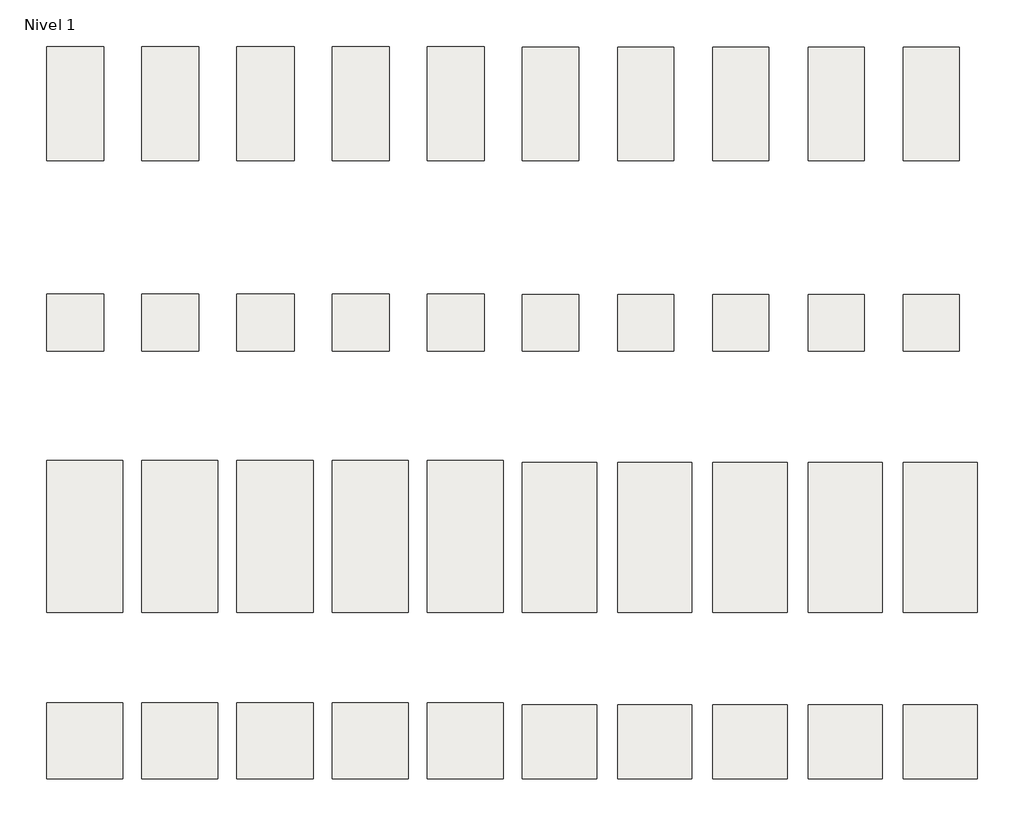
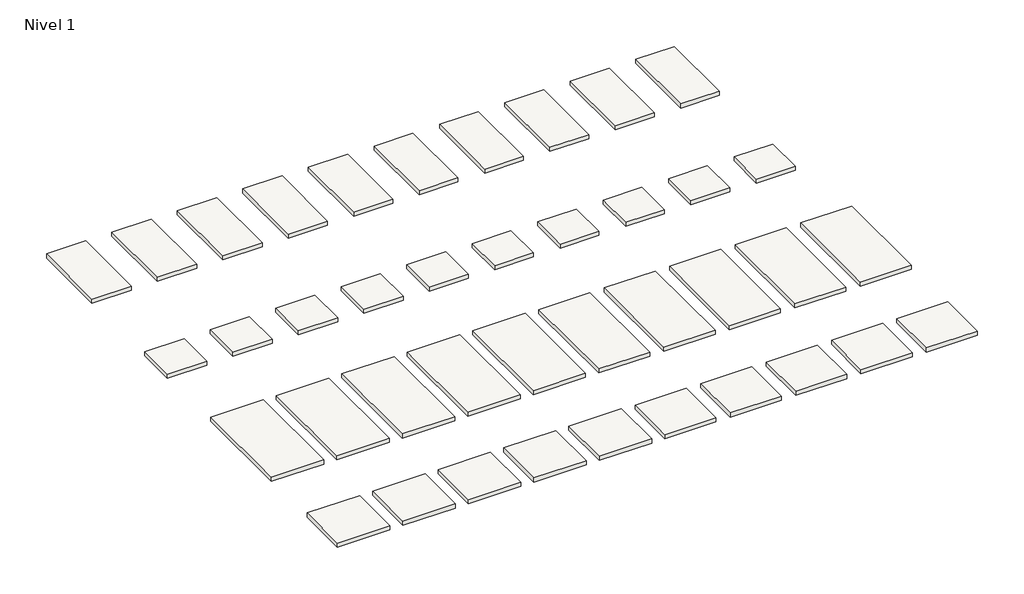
# One storey: 40 slabs.
"""IFC4 building model written with IfcOpenShell, lengths in millimetres."""

from ifc_helpers import new_model, si_unit, frame, origin, place, context, project, spatial, polyline, outline, extrude, element, save

model = new_model("IFC4")

# Units and contexts
model_context = context("Model", 3, world=origin())
ifc_project = project(units=[si_unit("LENGTHUNIT", "METRE", prefix="MILLI")], contexts=[model_context])

# Site, building, storey
site = spatial("IfcSite", under=ifc_project)
building = spatial("IfcBuilding", under=site)
storey = spatial("IfcBuildingStorey", under=building, Name="Nivel 1", Elevation=0.0)

# Slabs
placement = place(None, origin())
element("IfcSlab", 1, ObjectType="Artic Antracita 60X120 Natural", at=placement, inside=storey, context=model_context, shape_type="SweptSolid", body=[
    extrude(outline(polyline([(0.0, 1200.0), (600.0, 1200.0), (600.0, 0.0), (0.0, 0.0), (0.0, 1200.0)])), frame((0.0, 0.0, -65.0), z_axis=(0.0, 0.0, 1.0), x_axis=(1.0, 0.0, 0.0)), (0.0, 0.0, 1.0), 65.0),
])
element("IfcSlab", 2, ObjectType="Artic Beige 60X120 Natural", at=placement, inside=storey, context=model_context, shape_type="SweptSolid", body=[
    extrude(outline(polyline([(1000.0, 1200.0), (1600.0, 1200.0), (1600.0, 0.0), (1000.0, 0.0), (1000.0, 1200.0)])), frame((0.0, 0.0, -65.0), z_axis=(0.0, 0.0, 1.0), x_axis=(1.0, 0.0, 0.0)), (0.0, 0.0, 1.0), 65.0),
])
element("IfcSlab", 3, ObjectType="Artic Blanco 60X120 Natural", at=placement, inside=storey, context=model_context, shape_type="SweptSolid", body=[
    extrude(outline(polyline([(2000.0, 1200.0), (2600.0, 1200.0), (2600.0, 0.0), (2000.0, 0.0), (2000.0, 1200.0)])), frame((0.0, 0.0, -65.0), z_axis=(0.0, 0.0, 1.0), x_axis=(1.0, 0.0, 0.0)), (0.0, 0.0, 1.0), 65.0),
])
element("IfcSlab", 4, ObjectType="Artic Gris 60X120 Natural", at=placement, inside=storey, context=model_context, shape_type="SweptSolid", body=[
    extrude(outline(polyline([(3000.0, 1200.0), (3600.0, 1200.0), (3600.0, 0.0), (3000.0, 0.0), (3000.0, 1200.0)])), frame((0.0, 0.0, -65.0), z_axis=(0.0, 0.0, 1.0), x_axis=(1.0, 0.0, 0.0)), (0.0, 0.0, 1.0), 65.0),
])
element("IfcSlab", 5, ObjectType="Artic Moka 60X120 Natural", at=placement, inside=storey, context=model_context, shape_type="SweptSolid", body=[
    extrude(outline(polyline([(4000.0, 1200.0), (4600.0, 1200.0), (4600.0, 0.0), (4000.0, 0.0), (4000.0, 1200.0)])), frame((0.0, 0.0, -65.0), z_axis=(0.0, 0.0, 1.0), x_axis=(1.0, 0.0, 0.0)), (0.0, 0.0, 1.0), 65.0),
])
element("IfcSlab", 6, ObjectType="Artic Antracita 59X119 Pulido", at=placement, inside=storey, context=model_context, shape_type="SweptSolid", body=[
    extrude(outline(polyline([(5000.0, 1190.0), (5590.0, 1190.0), (5590.0, 0.0), (5000.0, 0.0), (5000.0, 1190.0)])), frame((0.0, 0.0, -65.0), z_axis=(0.0, 0.0, 1.0), x_axis=(1.0, 0.0, 0.0)), (0.0, 0.0, 1.0), 65.0),
])
element("IfcSlab", 7, ObjectType="Artic Beige 59X119 Pulido", at=placement, inside=storey, context=model_context, shape_type="SweptSolid", body=[
    extrude(outline(polyline([(6000.0, 1190.0), (6590.0, 1190.0), (6590.0, 0.0), (6000.0, 0.0), (6000.0, 1190.0)])), frame((0.0, 0.0, -65.0), z_axis=(0.0, 0.0, 1.0), x_axis=(1.0, 0.0, 0.0)), (0.0, 0.0, 1.0), 65.0),
])
element("IfcSlab", 8, ObjectType="Artic Blanco 59X119 Pulido", at=placement, inside=storey, context=model_context, shape_type="SweptSolid", body=[
    extrude(outline(polyline([(7000.0, 1190.0), (7590.0, 1190.0), (7590.0, 0.0), (7000.0, 0.0), (7000.0, 1190.0)])), frame((0.0, 0.0, -65.0), z_axis=(0.0, 0.0, 1.0), x_axis=(1.0, 0.0, 0.0)), (0.0, 0.0, 1.0), 65.0),
])
element("IfcSlab", 9, ObjectType="Artic Gris 59X119 Pulido", at=placement, inside=storey, context=model_context, shape_type="SweptSolid", body=[
    extrude(outline(polyline([(8000.0, 1190.0), (8590.0, 1190.0), (8590.0, 0.0), (8000.0, 0.0), (8000.0, 1190.0)])), frame((0.0, 0.0, -65.0), z_axis=(0.0, 0.0, 1.0), x_axis=(1.0, 0.0, 0.0)), (0.0, 0.0, 1.0), 65.0),
])
element("IfcSlab", 10, ObjectType="Artic Moka 59X119 Pulido", at=placement, inside=storey, context=model_context, shape_type="SweptSolid", body=[
    extrude(outline(polyline([(9000.0, 1190.0), (9590.0, 1190.0), (9590.0, 0.0), (9000.0, 0.0), (9000.0, 1190.0)])), frame((0.0, 0.0, -65.0), z_axis=(0.0, 0.0, 1.0), x_axis=(1.0, 0.0, 0.0)), (0.0, 0.0, 1.0), 65.0),
])
element("IfcSlab", 11, ObjectType="Artic Antracita 60X60 Natural", at=placement, inside=storey, context=model_context, shape_type="SweptSolid", body=[
    extrude(outline(polyline([(0.0, -1400.0), (600.0, -1400.0), (600.0, -2000.0), (0.0, -2000.0), (0.0, -1400.0)])), frame((0.0, 0.0, -65.0), z_axis=(0.0, 0.0, 1.0), x_axis=(1.0, 0.0, 0.0)), (0.0, 0.0, 1.0), 65.0),
])
element("IfcSlab", 12, ObjectType="Artic Beige 60X60 Natural", at=placement, inside=storey, context=model_context, shape_type="SweptSolid", body=[
    extrude(outline(polyline([(1000.0, -1400.0), (1600.0, -1400.0), (1600.0, -2000.0), (1000.0, -2000.0), (1000.0, -1400.0)])), frame((0.0, 0.0, -65.0), z_axis=(0.0, 0.0, 1.0), x_axis=(1.0, 0.0, 0.0)), (0.0, 0.0, 1.0), 65.0),
])
element("IfcSlab", 13, ObjectType="Artic Blanco 60X60 Natural", at=placement, inside=storey, context=model_context, shape_type="SweptSolid", body=[
    extrude(outline(polyline([(2000.0, -1400.0), (2600.0, -1400.0), (2600.0, -2000.0), (2000.0, -2000.0), (2000.0, -1400.0)])), frame((0.0, 0.0, -65.0), z_axis=(0.0, 0.0, 1.0), x_axis=(1.0, 0.0, 0.0)), (0.0, 0.0, 1.0), 65.0),
])
element("IfcSlab", 14, ObjectType="Artic Gris 60X60 Natural", at=placement, inside=storey, context=model_context, shape_type="SweptSolid", body=[
    extrude(outline(polyline([(3000.0, -1400.0), (3600.0, -1400.0), (3600.0, -2000.0), (3000.0, -2000.0), (3000.0, -1400.0)])), frame((0.0, 0.0, -65.0), z_axis=(0.0, 0.0, 1.0), x_axis=(1.0, 0.0, 0.0)), (0.0, 0.0, 1.0), 65.0),
])
element("IfcSlab", 15, ObjectType="Artic Moka 60X60 Natural", at=placement, inside=storey, context=model_context, shape_type="SweptSolid", body=[
    extrude(outline(polyline([(4000.0, -1400.0), (4600.0, -1400.0), (4600.0, -2000.0), (4000.0, -2000.0), (4000.0, -1400.0)])), frame((0.0, 0.0, -65.0), z_axis=(0.0, 0.0, 1.0), x_axis=(1.0, 0.0, 0.0)), (0.0, 0.0, 1.0), 65.0),
])
element("IfcSlab", 16, ObjectType="Artic Antracita 59X59 Pulido", at=placement, inside=storey, context=model_context, shape_type="SweptSolid", body=[
    extrude(outline(polyline([(5000.0, -1410.0), (5590.0, -1410.0), (5590.0, -2000.0), (5000.0, -2000.0), (5000.0, -1410.0)])), frame((0.0, 0.0, -65.0), z_axis=(0.0, 0.0, 1.0), x_axis=(1.0, 0.0, 0.0)), (0.0, 0.0, 1.0), 65.0),
])
element("IfcSlab", 17, ObjectType="Artic Beige 59X59 Pulido", at=placement, inside=storey, context=model_context, shape_type="SweptSolid", body=[
    extrude(outline(polyline([(6000.0, -1410.0), (6590.0, -1410.0), (6590.0, -2000.0), (6000.0, -2000.0), (6000.0, -1410.0)])), frame((0.0, 0.0, -65.0), z_axis=(0.0, 0.0, 1.0), x_axis=(1.0, 0.0, 0.0)), (0.0, 0.0, 1.0), 65.0),
])
element("IfcSlab", 18, ObjectType="Artic Blanco 59X59 Pulido", at=placement, inside=storey, context=model_context, shape_type="SweptSolid", body=[
    extrude(outline(polyline([(7000.0, -1410.0), (7590.0, -1410.0), (7590.0, -2000.0), (7000.0, -2000.0), (7000.0, -1410.0)])), frame((0.0, 0.0, -65.0), z_axis=(0.0, 0.0, 1.0), x_axis=(1.0, 0.0, 0.0)), (0.0, 0.0, 1.0), 65.0),
])
element("IfcSlab", 19, ObjectType="Artic Gris 59X59 Pulido", at=placement, inside=storey, context=model_context, shape_type="SweptSolid", body=[
    extrude(outline(polyline([(8000.0, -1410.0), (8590.0, -1410.0), (8590.0, -2000.0), (8000.0, -2000.0), (8000.0, -1410.0)])), frame((0.0, 0.0, -65.0), z_axis=(0.0, 0.0, 1.0), x_axis=(1.0, 0.0, 0.0)), (0.0, 0.0, 1.0), 65.0),
])
element("IfcSlab", 20, ObjectType="Artic Moka 59X59 Pulido", at=placement, inside=storey, context=model_context, shape_type="SweptSolid", body=[
    extrude(outline(polyline([(9000.0, -1410.0), (9590.0, -1410.0), (9590.0, -2000.0), (9000.0, -2000.0), (9000.0, -1410.0)])), frame((0.0, 0.0, -65.0), z_axis=(0.0, 0.0, 1.0), x_axis=(1.0, 0.0, 0.0)), (0.0, 0.0, 1.0), 65.0),
])
element("IfcSlab", 21, ObjectType="Artic Antracita 80X160 Natural", at=placement, inside=storey, context=model_context, shape_type="SweptSolid", body=[
    extrude(outline(polyline([(0.0, -3150.0), (800.0, -3150.0), (800.0, -4750.0), (0.0, -4750.0), (0.0, -3150.0)])), frame((0.0, 0.0, -65.0), z_axis=(0.0, 0.0, 1.0), x_axis=(1.0, 0.0, 0.0)), (0.0, 0.0, 1.0), 65.0),
])
element("IfcSlab", 22, ObjectType="Artic Beige 80X160 Natural", at=placement, inside=storey, context=model_context, shape_type="SweptSolid", body=[
    extrude(outline(polyline([(1000.0, -3150.0), (1800.0, -3150.0), (1800.0, -4750.0), (1000.0, -4750.0), (1000.0, -3150.0)])), frame((0.0, 0.0, -65.0), z_axis=(0.0, 0.0, 1.0), x_axis=(1.0, 0.0, 0.0)), (0.0, 0.0, 1.0), 65.0),
])
element("IfcSlab", 23, ObjectType="Artic Blanco 80X160 Natural", at=placement, inside=storey, context=model_context, shape_type="SweptSolid", body=[
    extrude(outline(polyline([(2000.0, -3150.0), (2800.0, -3150.0), (2800.0, -4750.0), (2000.0, -4750.0), (2000.0, -3150.0)])), frame((0.0, 0.0, -65.0), z_axis=(0.0, 0.0, 1.0), x_axis=(1.0, 0.0, 0.0)), (0.0, 0.0, 1.0), 65.0),
])
element("IfcSlab", 24, ObjectType="Artic Gris 80X160 Natural", at=placement, inside=storey, context=model_context, shape_type="SweptSolid", body=[
    extrude(outline(polyline([(3000.0, -3150.0), (3800.0, -3150.0), (3800.0, -4750.0), (3000.0, -4750.0), (3000.0, -3150.0)])), frame((0.0, 0.0, -65.0), z_axis=(0.0, 0.0, 1.0), x_axis=(1.0, 0.0, 0.0)), (0.0, 0.0, 1.0), 65.0),
])
element("IfcSlab", 25, ObjectType="Artic Moka 80X160 Natural", at=placement, inside=storey, context=model_context, shape_type="SweptSolid", body=[
    extrude(outline(polyline([(4000.0, -3150.0), (4800.0, -3150.0), (4800.0, -4750.0), (4000.0, -4750.0), (4000.0, -3150.0)])), frame((0.0, 0.0, -65.0), z_axis=(0.0, 0.0, 1.0), x_axis=(1.0, 0.0, 0.0)), (0.0, 0.0, 1.0), 65.0),
])
element("IfcSlab", 26, ObjectType="Artic Antracita 78X158 Pulido", at=placement, inside=storey, context=model_context, shape_type="SweptSolid", body=[
    extrude(outline(polyline([(5000.0, -3170.0), (5780.0, -3170.0), (5780.0, -4750.0), (5000.0, -4750.0), (5000.0, -3170.0)])), frame((0.0, 0.0, -65.0), z_axis=(0.0, 0.0, 1.0), x_axis=(1.0, 0.0, 0.0)), (0.0, 0.0, 1.0), 65.0),
])
element("IfcSlab", 27, ObjectType="Artic Beige 78X158 Pulido", at=placement, inside=storey, context=model_context, shape_type="SweptSolid", body=[
    extrude(outline(polyline([(6000.0, -3170.0), (6780.0, -3170.0), (6780.0, -4750.0), (6000.0, -4750.0), (6000.0, -3170.0)])), frame((0.0, 0.0, -65.0), z_axis=(0.0, 0.0, 1.0), x_axis=(1.0, 0.0, 0.0)), (0.0, 0.0, 1.0), 65.0),
])
element("IfcSlab", 28, ObjectType="Artic Blanco 78X158 Pulido", at=placement, inside=storey, context=model_context, shape_type="SweptSolid", body=[
    extrude(outline(polyline([(7000.0, -3170.0), (7780.0, -3170.0), (7780.0, -4750.0), (7000.0, -4750.0), (7000.0, -3170.0)])), frame((0.0, 0.0, -65.0), z_axis=(0.0, 0.0, 1.0), x_axis=(1.0, 0.0, 0.0)), (0.0, 0.0, 1.0), 65.0),
])
element("IfcSlab", 29, ObjectType="Artic Gris 78X158 Pulido", at=placement, inside=storey, context=model_context, shape_type="SweptSolid", body=[
    extrude(outline(polyline([(8000.0, -3170.0), (8780.0, -3170.0), (8780.0, -4750.0), (8000.0, -4750.0), (8000.0, -3170.0)])), frame((0.0, 0.0, -65.0), z_axis=(0.0, 0.0, 1.0), x_axis=(1.0, 0.0, 0.0)), (0.0, 0.0, 1.0), 65.0),
])
element("IfcSlab", 30, ObjectType="Artic Moka 78X158 Pulido", at=placement, inside=storey, context=model_context, shape_type="SweptSolid", body=[
    extrude(outline(polyline([(9000.0, -3170.0), (9780.0, -3170.0), (9780.0, -4750.0), (9000.0, -4750.0), (9000.0, -3170.0)])), frame((0.0, 0.0, -65.0), z_axis=(0.0, 0.0, 1.0), x_axis=(1.0, 0.0, 0.0)), (0.0, 0.0, 1.0), 65.0),
])
element("IfcSlab", 31, ObjectType="Artic Antracita 80X80 Natural", at=placement, inside=storey, context=model_context, shape_type="SweptSolid", body=[
    extrude(outline(polyline([(0.0, -5700.0), (800.0, -5700.0), (800.0, -6500.0), (0.0, -6500.0), (0.0, -5700.0)])), frame((0.0, 0.0, -66.3), z_axis=(0.0, 0.0, 1.0), x_axis=(1.0, 0.0, 0.0)), (0.0, 0.0, 1.0), 66.3),
])
element("IfcSlab", 32, ObjectType="Artic Beige 80X80 Natural", at=placement, inside=storey, context=model_context, shape_type="SweptSolid", body=[
    extrude(outline(polyline([(1000.0, -5700.0), (1800.0, -5700.0), (1800.0, -6500.0), (1000.0, -6500.0), (1000.0, -5700.0)])), frame((0.0, 0.0, -66.3), z_axis=(0.0, 0.0, 1.0), x_axis=(1.0, 0.0, 0.0)), (0.0, 0.0, 1.0), 66.3),
])
element("IfcSlab", 33, ObjectType="Artic Blanco 80X80 Natural", at=placement, inside=storey, context=model_context, shape_type="SweptSolid", body=[
    extrude(outline(polyline([(2000.0, -5700.0), (2800.0, -5700.0), (2800.0, -6500.0), (2000.0, -6500.0), (2000.0, -5700.0)])), frame((0.0, 0.0, -66.3), z_axis=(0.0, 0.0, 1.0), x_axis=(1.0, 0.0, 0.0)), (0.0, 0.0, 1.0), 66.3),
])
element("IfcSlab", 34, ObjectType="Artic Gris 80X80 Natural", at=placement, inside=storey, context=model_context, shape_type="SweptSolid", body=[
    extrude(outline(polyline([(3000.0, -5700.0), (3800.0, -5700.0), (3800.0, -6500.0), (3000.0, -6500.0), (3000.0, -5700.0)])), frame((0.0, 0.0, -66.3), z_axis=(0.0, 0.0, 1.0), x_axis=(1.0, 0.0, 0.0)), (0.0, 0.0, 1.0), 66.3),
])
element("IfcSlab", 35, ObjectType="Artic Moka 80X80 Natural", at=placement, inside=storey, context=model_context, shape_type="SweptSolid", body=[
    extrude(outline(polyline([(4000.0, -5700.0), (4800.0, -5700.0), (4800.0, -6500.0), (4000.0, -6500.0), (4000.0, -5700.0)])), frame((0.0, 0.0, -66.3), z_axis=(0.0, 0.0, 1.0), x_axis=(1.0, 0.0, 0.0)), (0.0, 0.0, 1.0), 66.3),
])
element("IfcSlab", 36, ObjectType="Artic Antracita 78X78 Pulido", at=placement, inside=storey, context=model_context, shape_type="SweptSolid", body=[
    extrude(outline(polyline([(5000.0, -5720.0), (5780.0, -5720.0), (5780.0, -6500.0), (5000.0, -6500.0), (5000.0, -5720.0)])), frame((0.0, 0.0, -66.3), z_axis=(0.0, 0.0, 1.0), x_axis=(1.0, 0.0, 0.0)), (0.0, 0.0, 1.0), 66.3),
])
element("IfcSlab", 37, ObjectType="Artic Beige 78X78 Pulido", at=placement, inside=storey, context=model_context, shape_type="SweptSolid", body=[
    extrude(outline(polyline([(6000.0, -5720.0), (6780.0, -5720.0), (6780.0, -6500.0), (6000.0, -6500.0), (6000.0, -5720.0)])), frame((0.0, 0.0, -66.3), z_axis=(0.0, 0.0, 1.0), x_axis=(1.0, 0.0, 0.0)), (0.0, 0.0, 1.0), 66.3),
])
element("IfcSlab", 38, ObjectType="Artic Blanco 78X78 Pulido", at=placement, inside=storey, context=model_context, shape_type="SweptSolid", body=[
    extrude(outline(polyline([(7000.0, -5720.0), (7780.0, -5720.0), (7780.0, -6500.0), (7000.0, -6500.0), (7000.0, -5720.0)])), frame((0.0, 0.0, -66.3), z_axis=(0.0, 0.0, 1.0), x_axis=(1.0, 0.0, 0.0)), (0.0, 0.0, 1.0), 66.3),
])
element("IfcSlab", 39, ObjectType="Artic Gris 78X78 Pulido", at=placement, inside=storey, context=model_context, shape_type="SweptSolid", body=[
    extrude(outline(polyline([(8000.0, -5720.0), (8780.0, -5720.0), (8780.0, -6500.0), (8000.0, -6500.0), (8000.0, -5720.0)])), frame((0.0, 0.0, -66.3), z_axis=(0.0, 0.0, 1.0), x_axis=(1.0, 0.0, 0.0)), (0.0, 0.0, 1.0), 66.3),
])
element("IfcSlab", 40, ObjectType="Artic Moka 78X78 Pulido", at=placement, inside=storey, context=model_context, shape_type="SweptSolid", body=[
    extrude(outline(polyline([(9000.0, -5720.0), (9780.0, -5720.0), (9780.0, -6500.0), (9000.0, -6500.0), (9000.0, -5720.0)])), frame((0.0, 0.0, -66.3), z_axis=(0.0, 0.0, 1.0), x_axis=(1.0, 0.0, 0.0)), (0.0, 0.0, 1.0), 66.3),
])

save(model, "model.ifc")
